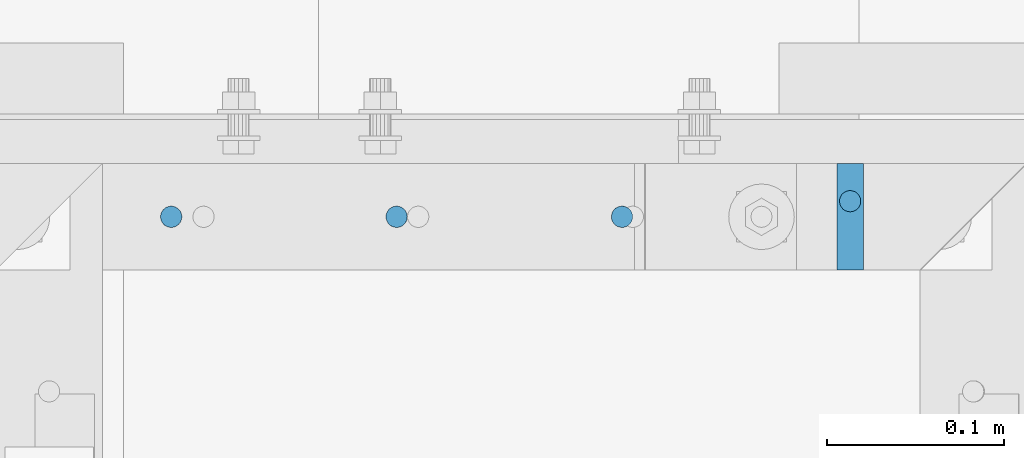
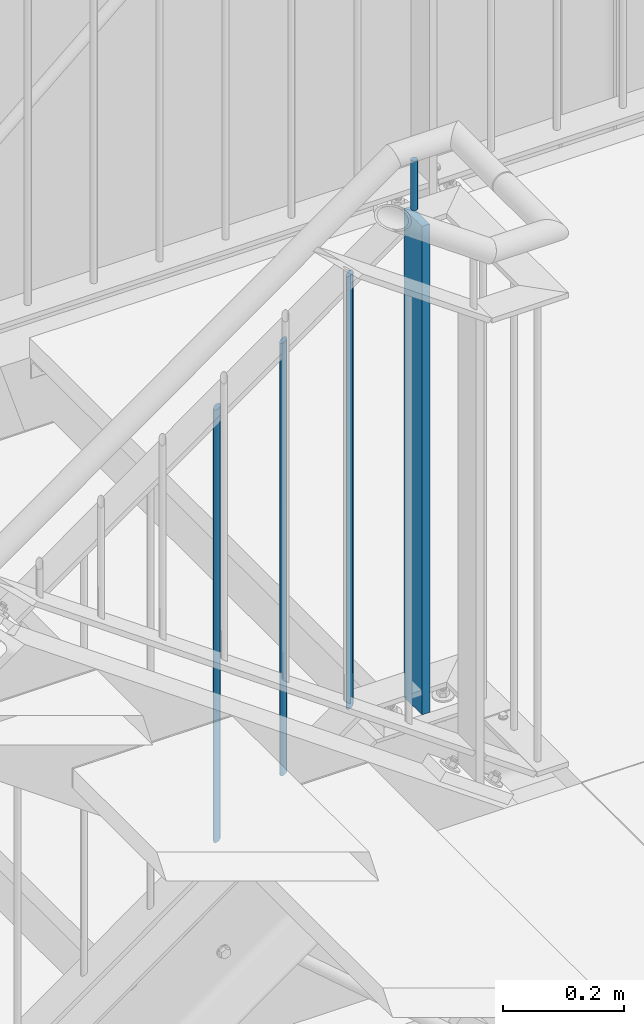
# One storey, part 93 of 831: 5 columns.
"""IFC2X3 building model written with IfcOpenShell, lengths in millimetres."""

from ifc_helpers import new_model, entity, si_unit, converted_unit, frame, origin, origin_with_axes, origin_2d, place, context, project, spatial, rectangle, circle, extrude, clip, halfspace, material, element, save


model = new_model("IFC2X3")

# Units and contexts
model_context = context("Model", 3, precision=1e-09, world=origin_with_axes())
ifc_project = project(units=[si_unit("LENGTHUNIT", "METRE", prefix="MILLI"), si_unit("AREAUNIT", "SQUARE_METRE"), si_unit("VOLUMEUNIT", "CUBIC_METRE"), converted_unit("PLANEANGLEUNIT", "DEGREE", entity("IfcPlaneAngleMeasure", 0.01745329), si_unit("PLANEANGLEUNIT", "RADIAN"), dimensions=[0, 0, 0, 0, 0, 0, 0])], contexts=[model_context])

# Site, building, storey
site_placement = place(None, origin_with_axes())
site = spatial("IfcSite", under=ifc_project, at=site_placement, Name="Site", CompositionType="ELEMENT")
building_placement = place(site_placement, origin_with_axes())
building = spatial("IfcBuilding", under=site, at=building_placement, Name="Struktur 1", CompositionType="ELEMENT")
storey_placement = place(building_placement, origin_with_axes())
storey = spatial("IfcBuildingStorey", under=building, at=storey_placement, Name="Default Storey", CompositionType="ELEMENT", Elevation=0.0)

# Columns
ifc_material = material(Name="S235JR")
column_1_placement = place(None, frame((7616.713902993, 6091.736971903, 3220.775923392), z_axis=(0.0, 0.0, 1.0), x_axis=(1.0, 0.0, 0.0)))
element("IfcColumn", 1, at=column_1_placement, inside=storey, material=ifc_material, Name="Railing_Post_Landing#2", ObjectType="Railing_Post_Landing#2", context=model_context, shape_type="Clipping", body=[
    clip(clip(extrude(rectangle(XDim=15.0, YDim=60.0, at=origin_2d()), origin(), (0.0, 0.0, -1.0), 1070.646584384), halfspace(frame((-7616.713902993, -6091.736971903, -1019.722292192), z_axis=(0.0, 0.0, 1.0), x_axis=(1.0, 0.0, 0.0)), True)), halfspace(frame((-7616.713902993, -6091.736971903, -30.924292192), z_axis=(0.0, 0.0, -1.0), x_axis=(-1.0, 0.0, 0.0)), True)),
])
column_2_placement = place(None, frame((7233.712534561, 6091.736971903, 2948.972146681), z_axis=(0.0, 0.0, 1.0), x_axis=(1.0, 0.0, 0.0)))
element("IfcColumn", 2, at=column_2_placement, inside=storey, material=ifc_material, Name="Railing_Picket_Stair#13", ObjectType="Railing_Picket_Stair#13", context=model_context, shape_type="Clipping", body=[
    clip(clip(extrude(circle(Radius=6.0, at=origin_2d()), origin(), (0.0, 0.0, -1.0), 896.604693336), halfspace(frame((-6188.880635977, -6091.736971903, -4416.549507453), z_axis=(0.579973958, 0.0, -0.814635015), x_axis=(0.0, 1.0, 0.0)), True)), halfspace(frame((-5775.108066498, -6091.736971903, -4997.737023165), z_axis=(-0.579973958, 0.0, 0.814635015), x_axis=(0.0, -1.0, 0.0)), True)),
])
column_3_placement = place(None, frame((7360.878218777, 6091.736971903, 3039.506906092), z_axis=(0.0, 0.0, 1.0), x_axis=(1.0, 0.0, 0.0)))
element("IfcColumn", 3, at=column_3_placement, inside=storey, material=ifc_material, Name="Railing_Picket_Stair#14", ObjectType="Railing_Picket_Stair#14", context=model_context, shape_type="Clipping", body=[
    clip(clip(extrude(circle(Radius=6.0, at=origin_2d()), origin(), (0.0, 0.0, -1.0), 896.604693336), halfspace(frame((-6316.046320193, -6091.736971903, -4507.084266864), z_axis=(0.579973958, 0.0, -0.814635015), x_axis=(0.0, 1.0, 0.0)), True)), halfspace(frame((-5902.273750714, -6091.736971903, -5088.271782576), z_axis=(-0.579973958, 0.0, 0.814635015), x_axis=(0.0, -1.0, 0.0)), True)),
])
column_4_placement = place(None, frame((7488.043902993, 6091.736971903, 3130.041665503), z_axis=(0.0, 0.0, 1.0), x_axis=(1.0, 0.0, 0.0)))
element("IfcColumn", 4, at=column_4_placement, inside=storey, material=ifc_material, Name="Railing_Picket_Stair#15", ObjectType="Railing_Picket_Stair#15", context=model_context, shape_type="Clipping", body=[
    clip(clip(extrude(circle(Radius=6.0, at=origin_2d()), origin(), (0.0, 0.0, -1.0), 896.604693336), halfspace(frame((-6443.212004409, -6091.736971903, -4597.619026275), z_axis=(0.579973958, 0.0, -0.814635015), x_axis=(0.0, 1.0, 0.0)), True)), halfspace(frame((-6029.43943493, -6091.736971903, -5178.806541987), z_axis=(-0.579973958, 0.0, 0.814635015), x_axis=(0.0, -1.0, 0.0)), True)),
])
column_5_placement = place(None, frame((7616.713902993, 6100.536971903, 3308.337912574), z_axis=(0.0, 0.0, 1.0), x_axis=(0.0, -1.0, 0.0)))
element("IfcColumn", 5, at=column_5_placement, inside=storey, material=ifc_material, Name="Bar#2", ObjectType="Bar#2", context=model_context, shape_type="Clipping", body=[
    clip(clip(extrude(circle(Radius=6.0, at=origin_2d()), origin(), (0.0, 0.0, -1.0), 116.970562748), halfspace(frame((6100.536971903, -7616.713902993, -8.486281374), z_axis=(0.0, 0.0, -1.0), x_axis=(0.0, -1.0, 0.0)), True)), halfspace(frame((6100.536971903, -7616.713902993, -108.484281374), z_axis=(0.0, 0.0, 1.0), x_axis=(0.0, 1.0, 0.0)), True)),
])

save(model, "model.ifc")
